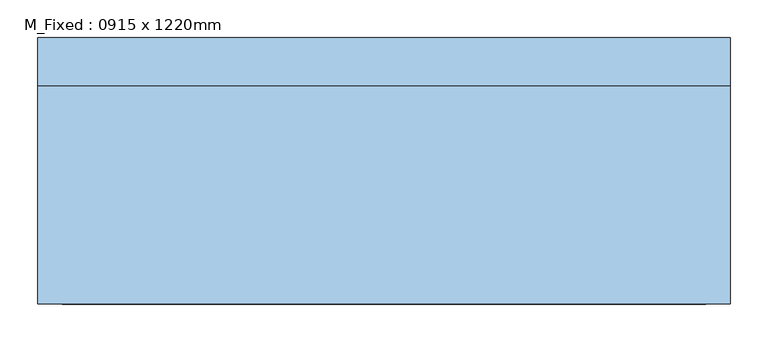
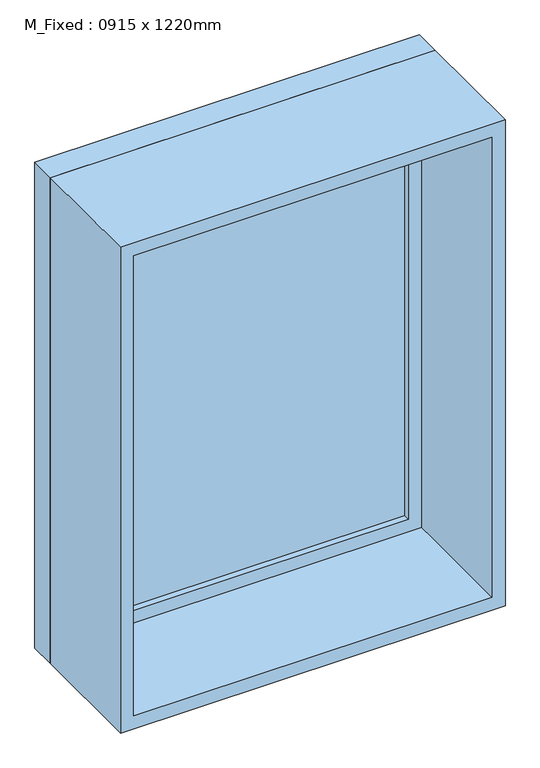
"""IFC4 building model written with IfcOpenShell, lengths in millimetres: window geometry, M_Fixed : 0915 x 1220mm."""

from ifc_helpers import new_model, si_unit, frame, origin, place, context, project, spatial, polyline, outline, extrude, source, transform, mapped, element, save


def m_fixed_0915_x_1220mm_ca90dcf7(model_context):
    return source(origin(), model_context, "Body", "SweptSolid", [
        extrude(outline(polyline([(-394.5, 154.2125), (394.5, 154.2125), (394.5, 142.2125), (-394.5, 142.2125), (-394.5, 154.2125)])), frame((0.0, 0.0, 978.0), z_axis=(0.0, 0.0, 1.0), x_axis=(1.0, 0.0, 0.0)), (0.0, 0.0, 1.0), 1094.0),
        extrude(outline(polyline([(2116.0, -438.5), (934.0, -438.5), (934.0, 438.5), (2116.0, 438.5), (2116.0, -438.5)]), holes=[polyline([(2072.0, -394.5), (2072.0, 394.5), (978.0, 394.5), (978.0, -394.5), (2072.0, -394.5)])]), frame((0.0, 126.2125, 0.0), z_axis=(0.0, 1.0, 0.0), x_axis=(0.0, 0.0, 1.0)), (0.0, 0.0, 1.0), 44.0),
        extrude(outline(polyline([(2135.0, -457.5), (915.0, -457.5), (915.0, 457.5), (2135.0, 457.5), (2135.0, -457.5)]), holes=[polyline([(2116.0, -438.5), (2116.0, 438.5), (934.0, 438.5), (934.0, -438.5), (2116.0, -438.5)])]), frame((0.0, 126.2125, 0.0), z_axis=(0.0, 1.0, 0.0), x_axis=(0.0, 0.0, 1.0)), (0.0, 0.0, 1.0), 63.0),
        extrude(outline(polyline([(2135.0, -457.5), (915.0, -457.5), (915.0, 457.5), (2135.0, 457.5), (2135.0, -457.5)]), holes=[polyline([(2103.0, -425.5), (2103.0, 425.5), (947.0, 425.5), (947.0, -425.5), (2103.0, -425.5)])]), frame((0.0, -163.2125, 0.0), z_axis=(0.0, 1.0, 0.0), x_axis=(0.0, 0.0, 1.0)), (0.0, 0.0, 1.0), 289.425),
    ])


if __name__ == "__main__":
    model = new_model("IFC4")
    model_context = context("Model", 3, world=origin())
    ifc_project = project(units=[si_unit("LENGTHUNIT", "METRE", prefix="MILLI")], contexts=[model_context])
    site = spatial("IfcSite", under=ifc_project)
    building = spatial("IfcBuilding", under=site)
    placement = place(None, origin())
    m_fixed_0915_x_1220mm_shape = m_fixed_0915_x_1220mm_ca90dcf7(model_context)
    element("IfcWindow", 1, ObjectType="M_Fixed : 0915 x 1220mm", at=placement, inside=building, context=model_context, shape_type="MappedRepresentation", body=[
        mapped(m_fixed_0915_x_1220mm_shape, transform((0.0, 0.0, 0.0), x_axis=(1.0, 0.0, 0.0), y_axis=(0.0, 1.0, 0.0), z_axis=(0.0, 0.0, 1.0))),
    ])
    save(model, "model.ifc")
